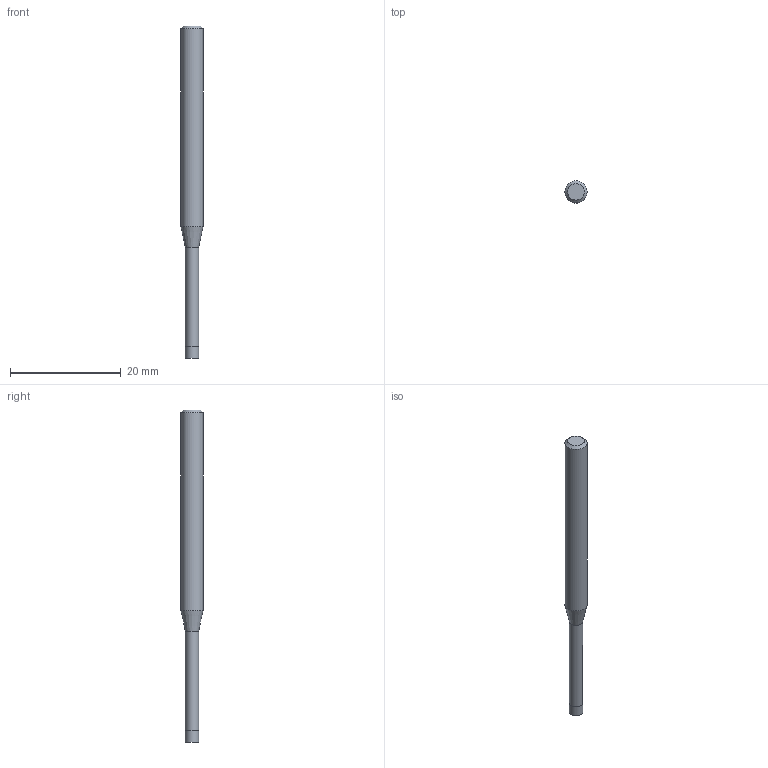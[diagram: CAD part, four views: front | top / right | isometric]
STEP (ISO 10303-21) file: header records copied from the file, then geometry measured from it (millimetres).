
FILE_DESCRIPTION((''),'2;1');
FILE_NAME('C:\Users\nsx150\AppData\Local\Temp\Mastercam 2021\RJ5U8K7RMU\TEMP.step','2021-04-21T16:42:33',(''),(''),'STEP Write','Mastercam 2021 ... CNC Software, Inc.','');
FILE_SCHEMA(('AUTOMOTIVE_DESIGN'));
Length unit declared in the file: millimetre
Products named in the file (1): None
Bounding box: 4 x 4 x 60 mm (x, y, z)
Volume: 576.1 mm3; surface area: 668.4 mm2
Topology: 2 solids, 2 shells, 9 faces, 12 edges, 7 vertices
Faces by surface type: plane 4, cylinder 3, cone 2
Full cylindrical faces by diameter (mm): 2.4 x1, 2.5 x1, 4 x1
Entity records: 211 total; most frequent: DIRECTION 36, CARTESIAN_POINT 25, AXIS2_PLACEMENT_3D 18, ORIENTED_EDGE 14, EDGE_LOOP 14, STYLED_ITEM 12, ADVANCED_FACE 9, FACE_BOUND 8
